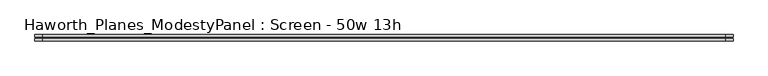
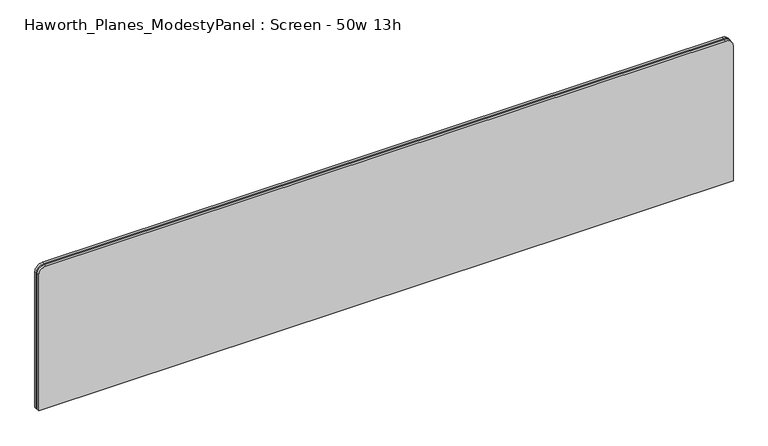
"""IFC4 building model written with IfcOpenShell, lengths in millimetres: furniture geometry, Haworth_Planes_ModestyPanel : Screen - 50w 13h."""

from ifc_helpers import new_model, si_unit, point, frame, frame_2d, origin, place, context, project, spatial, polyline, circle_curve, trimmed, segment, composite_curve, outline, extrude, source, transform, mapped, element, save


def haworth_planes_modestypanel_screen_50w_13h_d00a2eeb(model_context):
    return source(origin(), model_context, "Body", "SweptSolid", [
        extrude(outline(composite_curve([segment(polyline([(327.025, 958.85), (327.025, -527.05)]), True, "CONTINUOUS"), segment(trimmed(circle_curve(frame_2d((311.15, -527.05)), 15.875), [point((327.025, -527.05))], [point((311.15, -542.925))], False, "CARTESIAN"), True, "CONTINUOUS"), segment(polyline([(311.15, -542.925), (3.175, -542.925), (3.175, 974.725), (311.15, 974.725)]), True, "CONTINUOUS"), segment(trimmed(circle_curve(frame_2d((311.15, 958.85)), 15.875), [point((311.15, 974.725))], [point((327.025, 958.85))], False, "CARTESIAN"), True, "CONTINUOUS")], self_intersect=False)), frame((0.0, 198.1659766, 0.0), z_axis=(0.0, 1.0, 0.0), x_axis=(0.0, 0.0, 1.0)), (0.0, 0.0, 1.0), 3.175),
        extrude(outline(composite_curve([segment(polyline([(330.2, 962.025), (330.2, -530.225)]), True, "CONTINUOUS"), segment(trimmed(circle_curve(frame_2d((314.325, -530.225)), 15.875), [point((330.2, -530.225))], [point((314.325, -546.1))], False, "CARTESIAN"), True, "CONTINUOUS"), segment(polyline([(314.325, -546.1), (0.0, -546.1), (0.0, 977.9), (314.325, 977.9)]), True, "CONTINUOUS"), segment(trimmed(circle_curve(frame_2d((314.325, 962.025)), 15.875), [point((314.325, 977.9))], [point((330.2, 962.025))], False, "CARTESIAN"), True, "CONTINUOUS")], self_intersect=False)), frame((0.0, 192.6097266, 0.0), z_axis=(0.0, 1.0, 0.0), x_axis=(0.0, 0.0, 1.0)), (0.0, 0.0, 1.0), 5.55625),
        extrude(outline(composite_curve([segment(polyline([(330.2, 962.025), (330.2, -530.225)]), True, "CONTINUOUS"), segment(trimmed(circle_curve(frame_2d((314.325, -530.225)), 15.875), [point((330.2, -530.225))], [point((314.325, -546.1))], False, "CARTESIAN"), True, "CONTINUOUS"), segment(polyline([(314.325, -546.1), (0.0, -546.1), (0.0, 977.9), (314.325, 977.9)]), True, "CONTINUOUS"), segment(trimmed(circle_curve(frame_2d((314.325, 962.025)), 15.875), [point((314.325, 977.9))], [point((330.2, 962.025))], False, "CARTESIAN"), True, "CONTINUOUS")], self_intersect=False)), frame((0.0, 201.3409766, 0.0), z_axis=(0.0, 1.0, 0.0), x_axis=(0.0, 0.0, 1.0)), (0.0, 0.0, 1.0), 5.55625),
    ])


if __name__ == "__main__":
    model = new_model("IFC4")
    model_context = context("Model", 3, world=origin())
    ifc_project = project(units=[si_unit("LENGTHUNIT", "METRE", prefix="MILLI")], contexts=[model_context])
    site = spatial("IfcSite", under=ifc_project)
    building = spatial("IfcBuilding", under=site)
    placement = place(None, origin())
    haworth_planes_modestypanel_screen_50w_13h_shape = haworth_planes_modestypanel_screen_50w_13h_d00a2eeb(model_context)
    element("IfcFurniture", 1, ObjectType="Haworth_Planes_ModestyPanel : Screen - 50w 13h", at=placement, inside=building, context=model_context, shape_type="MappedRepresentation", body=[
        mapped(haworth_planes_modestypanel_screen_50w_13h_shape, transform((0.0, 0.0, 0.0), x_axis=(1.0, 0.0, 0.0), y_axis=(0.0, 1.0, 0.0), z_axis=(0.0, 0.0, 1.0))),
    ])
    save(model, "model.ifc")
